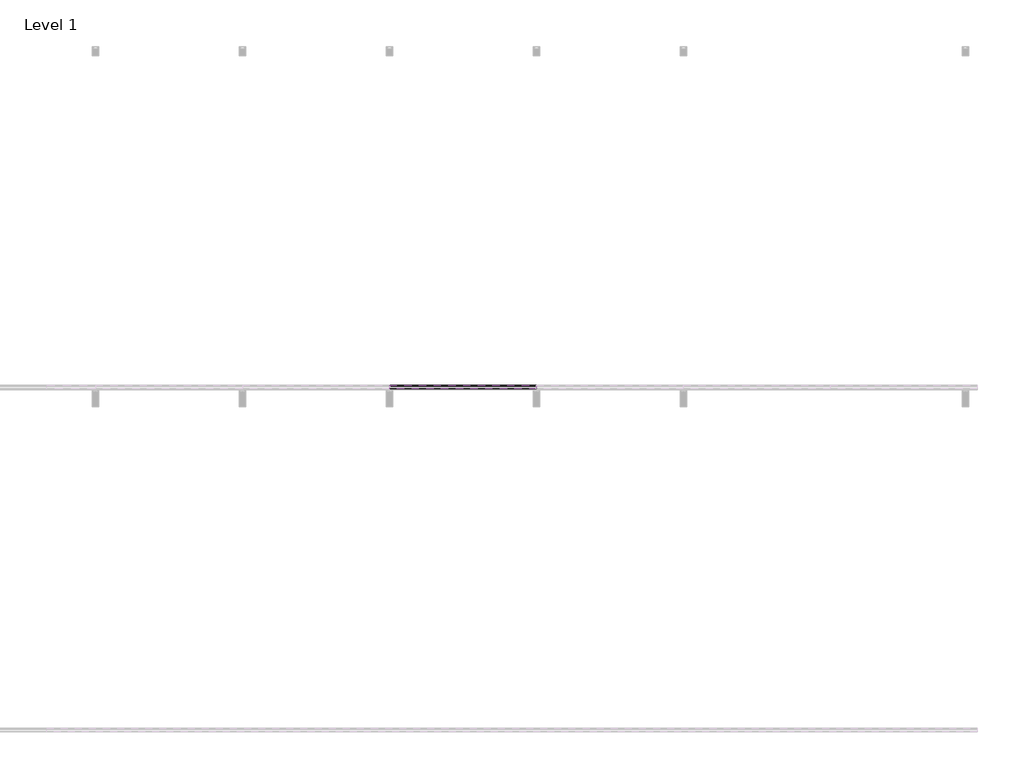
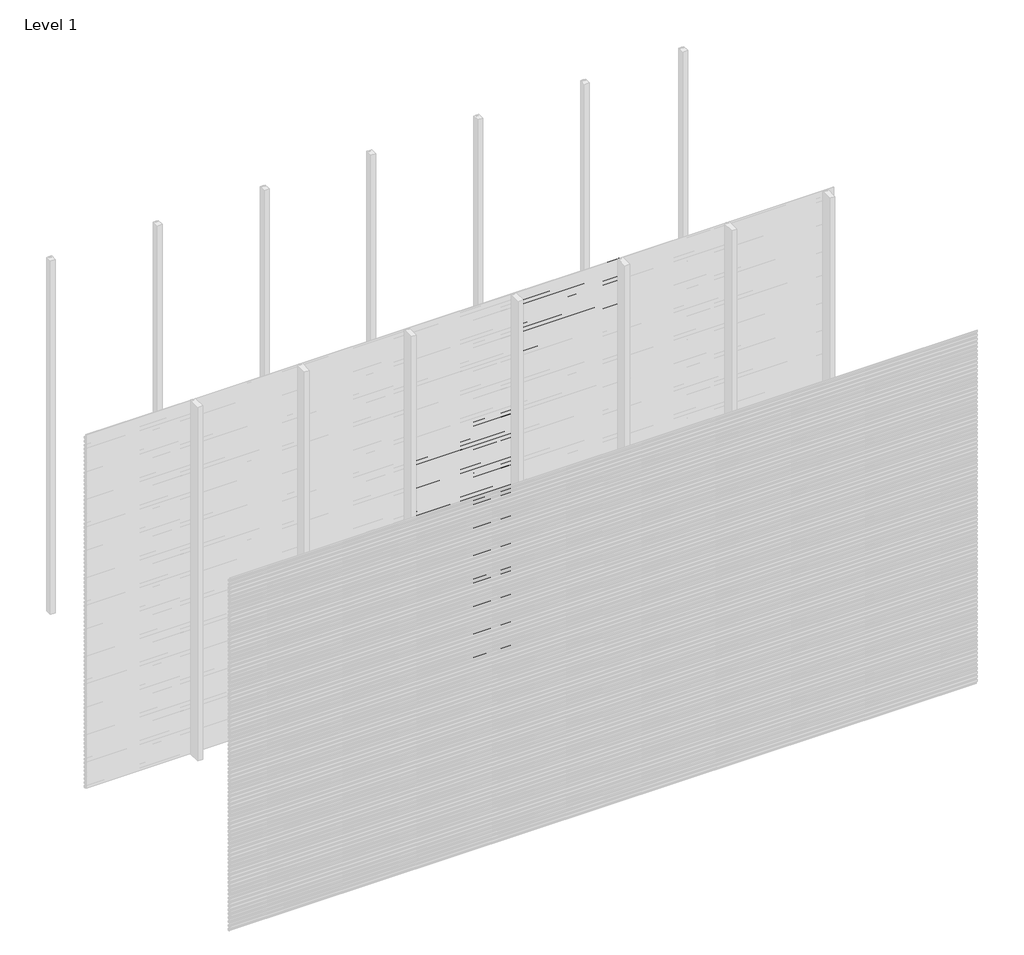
# One storey, part 37 of 96: 77 proxies.
"""IFC4 building model written with IfcOpenShell, lengths in millimetres."""

import ifcopenshell
import ifcopenshell.guid

model = None  # the IFC model being written
_history = None  # IfcOwnerHistory: only IFC2X3 demands one
_inside = {}  # id of a spatial element -> (the spatial element, [elements in it])
_under = {}  # id of a project, library or spatial element -> (it, [spatial elements below it])
_declared = {}  # id of a project -> (the project, [libraries it declares])
_typed = {}  # id of a type object -> (the type object, [elements of that type])
_made_of = {}  # id of a material, layer set ... -> (it, [elements and type objects made of it])


def new_model(schema):
    """Start an empty IFC model of exactly this schema.

    Asked for "IFC4X3", IfcOpenShell would pick the latest addendum, in which some entities
    have other attributes; the version numbers below select the first issue.
    IFC2X3 requires an IfcOwnerHistory on every rooted entity: one is made here for all.
    """
    global model, _history
    if schema == "IFC4X3":
        model = ifcopenshell.file(schema_version=(4, 3, 0, 0))
    else:
        model = ifcopenshell.file(schema=schema)
    _inside.clear()
    _under.clear()
    _declared.clear()
    _typed.clear()
    _made_of.clear()
    _history = None
    if model.schema == "IFC2X3":
        org = make("IfcOrganization", Name="unknown")
        user = make(
            "IfcPersonAndOrganization",
            ThePerson=make("IfcPerson", FamilyName="unknown"),
            TheOrganization=org,
        )
        app = make(
            "IfcApplication",
            ApplicationDeveloper=org,
            Version="unknown",
            ApplicationFullName="unknown",
            ApplicationIdentifier="unknown",
        )
        _history = make(
            "IfcOwnerHistory",
            OwningUser=user,
            OwningApplication=app,
            ChangeAction="ADDED",
            CreationDate=0,
        )
    return model


def make(cls, **values):
    """One entity of the class cls with the attributes given. An attribute that is None is left unset."""
    return model.create_entity(
        cls, **{name: value for name, value in values.items() if value is not None}
    )


def rooted(cls, **values):
    """An entity with a GlobalId (a new one), such as an element, a storey or a relation."""
    return make(cls, GlobalId=ifcopenshell.guid.new(), OwnerHistory=_history, **values)


def si_unit(unit_type, name, prefix=None):
    """IfcSIUnit, for example si_unit("LENGTHUNIT", "METRE", prefix="MILLI")."""
    return make("IfcSIUnit", UnitType=unit_type, Prefix=prefix, Name=name)


def assignment(units):
    """IfcUnitAssignment: the units of a project."""
    return None if units is None else make("IfcUnitAssignment", Units=units)


def point(xyz):
    """IfcCartesianPoint."""
    return None if xyz is None else make("IfcCartesianPoint", Coordinates=xyz)


def direction(xyz):
    """IfcDirection."""
    return None if xyz is None else make("IfcDirection", DirectionRatios=xyz)


def frame(location, z_axis=None, x_axis=None):
    """IfcAxis2Placement3D, a coordinate frame: its origin and axes. An axis left out is left unset."""
    return make(
        "IfcAxis2Placement3D",
        Location=point(location),
        Axis=direction(z_axis),
        RefDirection=direction(x_axis),
    )


def origin():
    """The frame at (0, 0, 0) with its axes left unset."""
    return frame((0.0, 0.0, 0.0))


def place(relative_to, where):
    """IfcLocalPlacement: puts the frame where relative to a parent placement (None: the world)."""
    return make(
        "IfcLocalPlacement", PlacementRelTo=relative_to, RelativePlacement=where
    )


def context(
    kind, dimensions, precision=None, world=None, true_north=None, identifier=None
):
    """IfcGeometricRepresentationContext, for example the 3D "Model" context."""
    return make(
        "IfcGeometricRepresentationContext",
        ContextIdentifier=identifier,
        ContextType=kind,
        CoordinateSpaceDimension=dimensions,
        Precision=precision,
        WorldCoordinateSystem=world,
        TrueNorth=true_north,
    )


def project(units=None, contexts=None):
    """IfcProject with its units and contexts."""
    return rooted(
        "IfcProject",
        Name="project",
        RepresentationContexts=contexts,
        UnitsInContext=assignment(units),
    )


def spatial(cls, under=None, at=None, **own):
    """A site, building, storey or space (cls), placed at a placement, below another one or the project."""
    s = rooted(cls, ObjectPlacement=at, **own)
    if under is not None:
        _under.setdefault(under.id(), (under, []))[1].append(s)
    return s


def polyline(points):
    """IfcPolyline through the points."""
    return make("IfcPolyline", Points=[point(p) for p in points])


def outline(outer, holes=None, kind="AREA"):
    """IfcArbitraryClosedProfileDef: a profile drawn as a closed curve; with holes, ...WithVoids."""
    if holes is None:
        return make("IfcArbitraryClosedProfileDef", ProfileType=kind, OuterCurve=outer)
    return make(
        "IfcArbitraryProfileDefWithVoids",
        ProfileType=kind,
        OuterCurve=outer,
        InnerCurves=holes,
    )


def extrude(swept, where, along, depth):
    """IfcExtrudedAreaSolid: the profile swept, set in the frame where, extruded along a direction by depth."""
    return make(
        "IfcExtrudedAreaSolid",
        SweptArea=swept,
        Position=where,
        ExtrudedDirection=direction(along),
        Depth=depth,
    )


def shape(context_of_items, identifier, shape_type, items):
    """IfcShapeRepresentation: the items that make up one representation, for example the "Body"."""
    return make(
        "IfcShapeRepresentation",
        ContextOfItems=context_of_items,
        RepresentationIdentifier=identifier,
        RepresentationType=shape_type,
        Items=items,
    )


def made_of(thing, what):
    """Note that an element or type object is made of a material, layer set ...; save() writes the relation."""
    if what is not None:
        _made_of.setdefault(what.id(), (what, []))[1].append(thing)
    return thing


def element(
    cls,
    number,
    at=None,
    inside=None,
    cuts=None,
    type_object=None,
    material=None,
    context=None,
    identifier="Body",
    shape_type=None,
    held_by="IfcProductDefinitionShape",
    body=None,
    shapes=None,
    **own,
):
    """One element of the class cls, such as IfcWall. Its Tag is "e" and its number.

    at: its placement. inside: the storey or other place that contains it. cuts: it is an
    opening in that element (IfcRelVoidsElement). A single representation is given by context,
    identifier, shape_type and body (its items); several are given by shapes. held_by: the class
    of the entity that holds the representations. save() writes the other relations.
    """
    e = rooted(cls, Tag="e%d" % number, ObjectPlacement=at, **own)
    if body is not None:
        shapes = [shape(context, identifier, shape_type, body)]
    if shapes is not None:
        e.Representation = make(held_by, Representations=shapes)
    if inside is not None:
        _inside.setdefault(inside.id(), (inside, []))[1].append(e)
    if cuts is not None:
        rooted(
            "IfcRelVoidsElement", RelatingBuildingElement=cuts, RelatedOpeningElement=e
        )
    if type_object is not None:
        _typed.setdefault(type_object.id(), (type_object, []))[1].append(e)
    return made_of(e, material)


def aggregate(whole, parts):
    """IfcRelAggregates: a whole, such as a stair, and the parts it consists of."""
    return rooted("IfcRelAggregates", RelatingObject=whole, RelatedObjects=parts)


def save(model, path):
    """Write the relations noted so far, then the file.

    IfcRelAggregates (storeys below a building ...), IfcRelContainedInSpatialStructure (elements
    in a storey), IfcRelDefinesByType, IfcRelAssociatesMaterial and IfcRelDeclares: one each for
    every whole, place, type object, material and project.
    """
    for whole, parts in _under.values():
        aggregate(whole, parts)
    for where, things in _inside.values():
        rooted(
            "IfcRelContainedInSpatialStructure",
            RelatedElements=things,
            RelatingStructure=where,
        )
    for kind, things in _typed.values():
        rooted("IfcRelDefinesByType", RelatedObjects=things, RelatingType=kind)
    for what, things in _made_of.values():
        rooted("IfcRelAssociatesMaterial", RelatedObjects=things, RelatingMaterial=what)
    for by, libraries in _declared.values():
        rooted("IfcRelDeclares", RelatingContext=by, RelatedDefinitions=libraries)
    model.write(path)


model = new_model("IFC4")

# Units and contexts
model_context = context("Model", 3, world=origin())
ifc_project = project(units=[si_unit("LENGTHUNIT", "METRE", prefix="MILLI")], contexts=[model_context])

# Site, building, storey
site = spatial("IfcSite", under=ifc_project)
building = spatial("IfcBuilding", under=site)
storey = spatial("IfcBuildingStorey", under=building, Name="Level 1", Elevation=0.0)

# Proxies
placement = place(None, origin())
element("IfcBuildingElementProxy", 1, Name="Wall Sweeps", at=placement, inside=storey, context=model_context, shape_type="SweptSolid", body=[
    extrude(outline(polyline([(-35977.6, 2006.0655033), (-35977.6, 1991.7779188), (-35982.4114965, 1989.0), (-35982.4114965, 1990.2701706), (-35978.85, 1992.3264016), (-35978.85, 2005.3437382), (-35998.0, 2016.4000799), (-35998.0, 2031.3), (-35996.75, 2031.3), (-35996.75, 2017.1217609), (-35977.6, 2006.0655033)])), frame((2571.4285714, 0.0, 0.0), z_axis=(1.0, 0.0, 0.0), x_axis=(0.0, 1.0, 0.0)), (0.0, 0.0, 1.0), 857.1428571),
])
element("IfcBuildingElementProxy", 2, Name="Wall Sweeps", at=placement, inside=storey, context=model_context, shape_type="SweptSolid", body=[
    extrude(outline(polyline([(-35977.6, 1972.7655033), (-35977.6, 1958.4779188), (-35982.4114965, 1955.7), (-35982.4114965, 1956.9701706), (-35978.85, 1959.0264016), (-35978.85, 1972.0437382), (-35998.0, 1983.1000799), (-35998.0, 1998.0), (-35996.75, 1998.0), (-35996.75, 1983.8217609), (-35977.6, 1972.7655033)])), frame((2571.4285714, 0.0, 0.0), z_axis=(1.0, 0.0, 0.0), x_axis=(0.0, 1.0, 0.0)), (0.0, 0.0, 1.0), 857.1428571),
])
element("IfcBuildingElementProxy", 3, Name="Wall Sweeps", at=placement, inside=storey, context=model_context, shape_type="SweptSolid", body=[
    extrude(outline(polyline([(-35977.6, 1939.4655033), (-35977.6, 1925.1779188), (-35982.4114965, 1922.4), (-35982.4114965, 1923.6701706), (-35978.85, 1925.7264016), (-35978.85, 1938.7437382), (-35998.0, 1949.8000799), (-35998.0, 1964.7), (-35996.75, 1964.7), (-35996.75, 1950.5217609), (-35977.6, 1939.4655033)])), frame((2571.4285714, 0.0, 0.0), z_axis=(1.0, 0.0, 0.0), x_axis=(0.0, 1.0, 0.0)), (0.0, 0.0, 1.0), 857.1428571),
])
element("IfcBuildingElementProxy", 4, Name="Wall Sweeps", at=placement, inside=storey, context=model_context, shape_type="SweptSolid", body=[
    extrude(outline(polyline([(-35977.6, 1906.1655033), (-35977.6, 1891.8779188), (-35982.4114965, 1889.1), (-35982.4114965, 1890.3701706), (-35978.85, 1892.4264016), (-35978.85, 1905.4437382), (-35998.0, 1916.5000799), (-35998.0, 1931.4), (-35996.75, 1931.4), (-35996.75, 1917.2217609), (-35977.6, 1906.1655033)])), frame((2571.4285714, 0.0, 0.0), z_axis=(1.0, 0.0, 0.0), x_axis=(0.0, 1.0, 0.0)), (0.0, 0.0, 1.0), 857.1428571),
])
element("IfcBuildingElementProxy", 5, Name="Wall Sweeps", at=placement, inside=storey, context=model_context, shape_type="SweptSolid", body=[
    extrude(outline(polyline([(-35977.6, 1872.8655033), (-35977.6, 1858.5779188), (-35982.4114965, 1855.8), (-35982.4114965, 1857.0701706), (-35978.85, 1859.1264016), (-35978.85, 1872.1437382), (-35998.0, 1883.2000799), (-35998.0, 1898.1), (-35996.75, 1898.1), (-35996.75, 1883.9217609), (-35977.6, 1872.8655033)])), frame((2571.4285714, 0.0, 0.0), z_axis=(1.0, 0.0, 0.0), x_axis=(0.0, 1.0, 0.0)), (0.0, 0.0, 1.0), 857.1428571),
])
element("IfcBuildingElementProxy", 6, Name="Wall Sweeps", at=placement, inside=storey, context=model_context, shape_type="SweptSolid", body=[
    extrude(outline(polyline([(-35977.6, 1839.5655033), (-35977.6, 1825.2779188), (-35982.4114965, 1822.5), (-35982.4114965, 1823.7701706), (-35978.85, 1825.8264016), (-35978.85, 1838.8437382), (-35998.0, 1849.9000799), (-35998.0, 1864.8), (-35996.75, 1864.8), (-35996.75, 1850.6217609), (-35977.6, 1839.5655033)])), frame((2571.4285714, 0.0, 0.0), z_axis=(1.0, 0.0, 0.0), x_axis=(0.0, 1.0, 0.0)), (0.0, 0.0, 1.0), 857.1428571),
])
element("IfcBuildingElementProxy", 7, Name="Wall Sweeps", at=placement, inside=storey, context=model_context, shape_type="SweptSolid", body=[
    extrude(outline(polyline([(-35977.6, 1806.2655033), (-35977.6, 1791.9779188), (-35982.4114965, 1789.2), (-35982.4114965, 1790.4701706), (-35978.85, 1792.5264016), (-35978.85, 1805.5437382), (-35998.0, 1816.6000799), (-35998.0, 1831.5), (-35996.75, 1831.5), (-35996.75, 1817.3217609), (-35977.6, 1806.2655033)])), frame((2571.4285714, 0.0, 0.0), z_axis=(1.0, 0.0, 0.0), x_axis=(0.0, 1.0, 0.0)), (0.0, 0.0, 1.0), 857.1428571),
])
element("IfcBuildingElementProxy", 8, Name="Wall Sweeps", at=placement, inside=storey, context=model_context, shape_type="SweptSolid", body=[
    extrude(outline(polyline([(-35977.6, 1772.9655033), (-35977.6, 1758.6779188), (-35982.4114965, 1755.9), (-35982.4114965, 1757.1701706), (-35978.85, 1759.2264016), (-35978.85, 1772.2437382), (-35998.0, 1783.3000799), (-35998.0, 1798.2), (-35996.75, 1798.2), (-35996.75, 1784.0217609), (-35977.6, 1772.9655033)])), frame((2571.4285714, 0.0, 0.0), z_axis=(1.0, 0.0, 0.0), x_axis=(0.0, 1.0, 0.0)), (0.0, 0.0, 1.0), 857.1428571),
])
element("IfcBuildingElementProxy", 9, Name="Wall Sweeps", at=placement, inside=storey, context=model_context, shape_type="SweptSolid", body=[
    extrude(outline(polyline([(-35977.6, 1739.6655033), (-35977.6, 1725.3779188), (-35982.4114965, 1722.6), (-35982.4114965, 1723.8701706), (-35978.85, 1725.9264016), (-35978.85, 1738.9437382), (-35998.0, 1750.0000799), (-35998.0, 1764.9), (-35996.75, 1764.9), (-35996.75, 1750.7217609), (-35977.6, 1739.6655033)])), frame((2571.4285714, 0.0, 0.0), z_axis=(1.0, 0.0, 0.0), x_axis=(0.0, 1.0, 0.0)), (0.0, 0.0, 1.0), 857.1428571),
])
element("IfcBuildingElementProxy", 10, Name="Wall Sweeps", at=placement, inside=storey, context=model_context, shape_type="SweptSolid", body=[
    extrude(outline(polyline([(-35977.6, 1706.3655033), (-35977.6, 1692.0779188), (-35982.4114965, 1689.3), (-35982.4114965, 1690.5701706), (-35978.85, 1692.6264016), (-35978.85, 1705.6437382), (-35998.0, 1716.7000799), (-35998.0, 1731.6), (-35996.75, 1731.6), (-35996.75, 1717.4217609), (-35977.6, 1706.3655033)])), frame((2571.4285714, 0.0, 0.0), z_axis=(1.0, 0.0, 0.0), x_axis=(0.0, 1.0, 0.0)), (0.0, 0.0, 1.0), 857.1428571),
])
element("IfcBuildingElementProxy", 11, Name="Wall Sweeps", at=placement, inside=storey, context=model_context, shape_type="SweptSolid", body=[
    extrude(outline(polyline([(-35977.6, 1673.0655033), (-35977.6, 1658.7779188), (-35982.4114965, 1656.0), (-35982.4114965, 1657.2701706), (-35978.85, 1659.3264016), (-35978.85, 1672.3437382), (-35998.0, 1683.4000799), (-35998.0, 1698.3), (-35996.75, 1698.3), (-35996.75, 1684.1217609), (-35977.6, 1673.0655033)])), frame((2571.4285714, 0.0, 0.0), z_axis=(1.0, 0.0, 0.0), x_axis=(0.0, 1.0, 0.0)), (0.0, 0.0, 1.0), 857.1428571),
])
element("IfcBuildingElementProxy", 12, Name="Wall Sweeps", at=placement, inside=storey, context=model_context, shape_type="SweptSolid", body=[
    extrude(outline(polyline([(-35977.6, 1639.7655033), (-35977.6, 1625.4779188), (-35982.4114965, 1622.7), (-35982.4114965, 1623.9701706), (-35978.85, 1626.0264016), (-35978.85, 1639.0437382), (-35998.0, 1650.1000799), (-35998.0, 1665.0), (-35996.75, 1665.0), (-35996.75, 1650.8217609), (-35977.6, 1639.7655033)])), frame((2571.4285714, 0.0, 0.0), z_axis=(1.0, 0.0, 0.0), x_axis=(0.0, 1.0, 0.0)), (0.0, 0.0, 1.0), 857.1428571),
])
element("IfcBuildingElementProxy", 13, Name="Wall Sweeps", at=placement, inside=storey, context=model_context, shape_type="SweptSolid", body=[
    extrude(outline(polyline([(-35977.6, 1606.4655033), (-35977.6, 1592.1779188), (-35982.4114965, 1589.4), (-35982.4114965, 1590.6701706), (-35978.85, 1592.7264016), (-35978.85, 1605.7437382), (-35998.0, 1616.8000799), (-35998.0, 1631.7), (-35996.75, 1631.7), (-35996.75, 1617.5217609), (-35977.6, 1606.4655033)])), frame((2571.4285714, 0.0, 0.0), z_axis=(1.0, 0.0, 0.0), x_axis=(0.0, 1.0, 0.0)), (0.0, 0.0, 1.0), 857.1428571),
])
element("IfcBuildingElementProxy", 14, Name="Wall Sweeps", at=placement, inside=storey, context=model_context, shape_type="SweptSolid", body=[
    extrude(outline(polyline([(-35977.6, 1573.1655033), (-35977.6, 1558.8779188), (-35982.4114965, 1556.1), (-35982.4114965, 1557.3701706), (-35978.85, 1559.4264016), (-35978.85, 1572.4437382), (-35998.0, 1583.5000799), (-35998.0, 1598.4), (-35996.75, 1598.4), (-35996.75, 1584.2217609), (-35977.6, 1573.1655033)])), frame((2571.4285714, 0.0, 0.0), z_axis=(1.0, 0.0, 0.0), x_axis=(0.0, 1.0, 0.0)), (0.0, 0.0, 1.0), 857.1428571),
])
element("IfcBuildingElementProxy", 15, Name="Wall Sweeps", at=placement, inside=storey, context=model_context, shape_type="SweptSolid", body=[
    extrude(outline(polyline([(-35977.6, 1539.8655033), (-35977.6, 1525.5779188), (-35982.4114965, 1522.8), (-35982.4114965, 1524.0701706), (-35978.85, 1526.1264016), (-35978.85, 1539.1437382), (-35998.0, 1550.2000799), (-35998.0, 1565.1), (-35996.75, 1565.1), (-35996.75, 1550.9217609), (-35977.6, 1539.8655033)])), frame((2571.4285714, 0.0, 0.0), z_axis=(1.0, 0.0, 0.0), x_axis=(0.0, 1.0, 0.0)), (0.0, 0.0, 1.0), 857.1428571),
])
element("IfcBuildingElementProxy", 16, Name="Wall Sweeps", at=placement, inside=storey, context=model_context, shape_type="SweptSolid", body=[
    extrude(outline(polyline([(-35977.6, 1506.5655033), (-35977.6, 1492.2779188), (-35982.4114965, 1489.5), (-35982.4114965, 1490.7701706), (-35978.85, 1492.8264016), (-35978.85, 1505.8437382), (-35998.0, 1516.9000799), (-35998.0, 1531.8), (-35996.75, 1531.8), (-35996.75, 1517.6217609), (-35977.6, 1506.5655033)])), frame((2571.4285714, 0.0, 0.0), z_axis=(1.0, 0.0, 0.0), x_axis=(0.0, 1.0, 0.0)), (0.0, 0.0, 1.0), 857.1428571),
])
element("IfcBuildingElementProxy", 17, Name="Wall Sweeps", at=placement, inside=storey, context=model_context, shape_type="SweptSolid", body=[
    extrude(outline(polyline([(-35977.6, 1473.2655033), (-35977.6, 1458.9779188), (-35982.4114965, 1456.2), (-35982.4114965, 1457.4701706), (-35978.85, 1459.5264016), (-35978.85, 1472.5437382), (-35998.0, 1483.6000799), (-35998.0, 1498.5), (-35996.75, 1498.5), (-35996.75, 1484.3217609), (-35977.6, 1473.2655033)])), frame((2571.4285714, 0.0, 0.0), z_axis=(1.0, 0.0, 0.0), x_axis=(0.0, 1.0, 0.0)), (0.0, 0.0, 1.0), 857.1428571),
])
element("IfcBuildingElementProxy", 18, Name="Wall Sweeps", at=placement, inside=storey, context=model_context, shape_type="SweptSolid", body=[
    extrude(outline(polyline([(-35977.6, 1439.9655033), (-35977.6, 1425.6779188), (-35982.4114965, 1422.9), (-35982.4114965, 1424.1701706), (-35978.85, 1426.2264016), (-35978.85, 1439.2437382), (-35998.0, 1450.3000799), (-35998.0, 1465.2), (-35996.75, 1465.2), (-35996.75, 1451.0217609), (-35977.6, 1439.9655033)])), frame((2571.4285714, 0.0, 0.0), z_axis=(1.0, 0.0, 0.0), x_axis=(0.0, 1.0, 0.0)), (0.0, 0.0, 1.0), 857.1428571),
])
element("IfcBuildingElementProxy", 19, Name="Wall Sweeps", at=placement, inside=storey, context=model_context, shape_type="SweptSolid", body=[
    extrude(outline(polyline([(-35977.6, 1406.6655033), (-35977.6, 1392.3779188), (-35982.4114965, 1389.6), (-35982.4114965, 1390.8701706), (-35978.85, 1392.9264016), (-35978.85, 1405.9437382), (-35998.0, 1417.0000799), (-35998.0, 1431.9), (-35996.75, 1431.9), (-35996.75, 1417.7217609), (-35977.6, 1406.6655033)])), frame((2571.4285714, 0.0, 0.0), z_axis=(1.0, 0.0, 0.0), x_axis=(0.0, 1.0, 0.0)), (0.0, 0.0, 1.0), 857.1428571),
])
element("IfcBuildingElementProxy", 20, Name="Wall Sweeps", at=placement, inside=storey, context=model_context, shape_type="SweptSolid", body=[
    extrude(outline(polyline([(-35977.6, 1373.3655033), (-35977.6, 1359.0779188), (-35982.4114965, 1356.3), (-35982.4114965, 1357.5701706), (-35978.85, 1359.6264016), (-35978.85, 1372.6437382), (-35998.0, 1383.7000799), (-35998.0, 1398.6), (-35996.75, 1398.6), (-35996.75, 1384.4217609), (-35977.6, 1373.3655033)])), frame((2571.4285714, 0.0, 0.0), z_axis=(1.0, 0.0, 0.0), x_axis=(0.0, 1.0, 0.0)), (0.0, 0.0, 1.0), 857.1428571),
])
element("IfcBuildingElementProxy", 21, Name="Wall Sweeps", at=placement, inside=storey, context=model_context, shape_type="SweptSolid", body=[
    extrude(outline(polyline([(-35977.6, 1340.0655033), (-35977.6, 1325.7779188), (-35982.4114965, 1323.0), (-35982.4114965, 1324.2701706), (-35978.85, 1326.3264016), (-35978.85, 1339.3437382), (-35998.0, 1350.4000799), (-35998.0, 1365.3), (-35996.75, 1365.3), (-35996.75, 1351.1217609), (-35977.6, 1340.0655033)])), frame((2571.4285714, 0.0, 0.0), z_axis=(1.0, 0.0, 0.0), x_axis=(0.0, 1.0, 0.0)), (0.0, 0.0, 1.0), 857.1428571),
])
element("IfcBuildingElementProxy", 22, Name="Wall Sweeps", at=placement, inside=storey, context=model_context, shape_type="SweptSolid", body=[
    extrude(outline(polyline([(-35977.6, 1306.7655033), (-35977.6, 1292.4779188), (-35982.4114965, 1289.7), (-35982.4114965, 1290.9701706), (-35978.85, 1293.0264016), (-35978.85, 1306.0437382), (-35998.0, 1317.1000799), (-35998.0, 1332.0), (-35996.75, 1332.0), (-35996.75, 1317.8217609), (-35977.6, 1306.7655033)])), frame((2571.4285714, 0.0, 0.0), z_axis=(1.0, 0.0, 0.0), x_axis=(0.0, 1.0, 0.0)), (0.0, 0.0, 1.0), 857.1428571),
])
element("IfcBuildingElementProxy", 23, Name="Wall Sweeps", at=placement, inside=storey, context=model_context, shape_type="SweptSolid", body=[
    extrude(outline(polyline([(-35977.6, 1273.4655033), (-35977.6, 1259.1779188), (-35982.4114965, 1256.4), (-35982.4114965, 1257.6701706), (-35978.85, 1259.7264016), (-35978.85, 1272.7437382), (-35998.0, 1283.8000799), (-35998.0, 1298.7), (-35996.75, 1298.7), (-35996.75, 1284.5217609), (-35977.6, 1273.4655033)])), frame((2571.4285714, 0.0, 0.0), z_axis=(1.0, 0.0, 0.0), x_axis=(0.0, 1.0, 0.0)), (0.0, 0.0, 1.0), 857.1428571),
])
element("IfcBuildingElementProxy", 24, Name="Wall Sweeps", at=placement, inside=storey, context=model_context, shape_type="SweptSolid", body=[
    extrude(outline(polyline([(-35977.6, 1240.1655033), (-35977.6, 1225.8779188), (-35982.4114965, 1223.1), (-35982.4114965, 1224.3701706), (-35978.85, 1226.4264016), (-35978.85, 1239.4437382), (-35998.0, 1250.5000799), (-35998.0, 1265.4), (-35996.75, 1265.4), (-35996.75, 1251.2217609), (-35977.6, 1240.1655033)])), frame((2571.4285714, 0.0, 0.0), z_axis=(1.0, 0.0, 0.0), x_axis=(0.0, 1.0, 0.0)), (0.0, 0.0, 1.0), 857.1428571),
])
element("IfcBuildingElementProxy", 25, Name="Wall Sweeps", at=placement, inside=storey, context=model_context, shape_type="SweptSolid", body=[
    extrude(outline(polyline([(-35977.6, 1206.8655033), (-35977.6, 1192.5779188), (-35982.4114965, 1189.8), (-35982.4114965, 1191.0701706), (-35978.85, 1193.1264016), (-35978.85, 1206.1437382), (-35998.0, 1217.2000799), (-35998.0, 1232.1), (-35996.75, 1232.1), (-35996.75, 1217.9217609), (-35977.6, 1206.8655033)])), frame((2571.4285714, 0.0, 0.0), z_axis=(1.0, 0.0, 0.0), x_axis=(0.0, 1.0, 0.0)), (0.0, 0.0, 1.0), 857.1428571),
])
element("IfcBuildingElementProxy", 26, Name="Wall Sweeps", at=placement, inside=storey, context=model_context, shape_type="SweptSolid", body=[
    extrude(outline(polyline([(-35977.6, 1173.5655033), (-35977.6, 1159.2779188), (-35982.4114965, 1156.5), (-35982.4114965, 1157.7701706), (-35978.85, 1159.8264016), (-35978.85, 1172.8437382), (-35998.0, 1183.9000799), (-35998.0, 1198.8), (-35996.75, 1198.8), (-35996.75, 1184.6217609), (-35977.6, 1173.5655033)])), frame((2571.4285714, 0.0, 0.0), z_axis=(1.0, 0.0, 0.0), x_axis=(0.0, 1.0, 0.0)), (0.0, 0.0, 1.0), 857.1428571),
])
element("IfcBuildingElementProxy", 27, Name="Wall Sweeps", at=placement, inside=storey, context=model_context, shape_type="SweptSolid", body=[
    extrude(outline(polyline([(-35977.6, 1140.2655033), (-35977.6, 1125.9779188), (-35982.4114965, 1123.2), (-35982.4114965, 1124.4701706), (-35978.85, 1126.5264016), (-35978.85, 1139.5437382), (-35998.0, 1150.6000799), (-35998.0, 1165.5), (-35996.75, 1165.5), (-35996.75, 1151.3217609), (-35977.6, 1140.2655033)])), frame((2571.4285714, 0.0, 0.0), z_axis=(1.0, 0.0, 0.0), x_axis=(0.0, 1.0, 0.0)), (0.0, 0.0, 1.0), 857.1428571),
])
element("IfcBuildingElementProxy", 28, Name="Wall Sweeps", at=placement, inside=storey, context=model_context, shape_type="SweptSolid", body=[
    extrude(outline(polyline([(-35977.6, 1106.9655033), (-35977.6, 1092.6779188), (-35982.4114965, 1089.9), (-35982.4114965, 1091.1701706), (-35978.85, 1093.2264016), (-35978.85, 1106.2437382), (-35998.0, 1117.3000799), (-35998.0, 1132.2), (-35996.75, 1132.2), (-35996.75, 1118.0217609), (-35977.6, 1106.9655033)])), frame((2571.4285714, 0.0, 0.0), z_axis=(1.0, 0.0, 0.0), x_axis=(0.0, 1.0, 0.0)), (0.0, 0.0, 1.0), 857.1428571),
])
element("IfcBuildingElementProxy", 29, Name="Wall Sweeps", at=placement, inside=storey, context=model_context, shape_type="SweptSolid", body=[
    extrude(outline(polyline([(-35977.6, 1073.6655033), (-35977.6, 1059.3779188), (-35982.4114965, 1056.6), (-35982.4114965, 1057.8701706), (-35978.85, 1059.9264016), (-35978.85, 1072.9437382), (-35998.0, 1084.0000799), (-35998.0, 1098.9), (-35996.75, 1098.9), (-35996.75, 1084.7217609), (-35977.6, 1073.6655033)])), frame((2571.4285714, 0.0, 0.0), z_axis=(1.0, 0.0, 0.0), x_axis=(0.0, 1.0, 0.0)), (0.0, 0.0, 1.0), 857.1428571),
])
element("IfcBuildingElementProxy", 30, Name="Wall Sweeps", at=placement, inside=storey, context=model_context, shape_type="SweptSolid", body=[
    extrude(outline(polyline([(-35977.6, 1040.3655033), (-35977.6, 1026.0779188), (-35982.4114965, 1023.3), (-35982.4114965, 1024.5701706), (-35978.85, 1026.6264016), (-35978.85, 1039.6437382), (-35998.0, 1050.7000799), (-35998.0, 1065.6), (-35996.75, 1065.6), (-35996.75, 1051.4217609), (-35977.6, 1040.3655033)])), frame((2571.4285714, 0.0, 0.0), z_axis=(1.0, 0.0, 0.0), x_axis=(0.0, 1.0, 0.0)), (0.0, 0.0, 1.0), 857.1428571),
])
element("IfcBuildingElementProxy", 31, Name="Wall Sweeps", at=placement, inside=storey, context=model_context, shape_type="SweptSolid", body=[
    extrude(outline(polyline([(-35977.6, 1007.0655033), (-35977.6, 992.7779188), (-35982.4114965, 990.0), (-35982.4114965, 991.2701706), (-35978.85, 993.3264016), (-35978.85, 1006.3437382), (-35998.0, 1017.4000799), (-35998.0, 1032.3), (-35996.75, 1032.3), (-35996.75, 1018.1217609), (-35977.6, 1007.0655033)])), frame((2571.4285714, 0.0, 0.0), z_axis=(1.0, 0.0, 0.0), x_axis=(0.0, 1.0, 0.0)), (0.0, 0.0, 1.0), 857.1428571),
])
element("IfcBuildingElementProxy", 32, Name="Wall Sweeps", at=placement, inside=storey, context=model_context, shape_type="SweptSolid", body=[
    extrude(outline(polyline([(-35977.6, 973.7655033), (-35977.6, 959.4779188), (-35982.4114965, 956.7), (-35982.4114965, 957.9701706), (-35978.85, 960.0264016), (-35978.85, 973.0437382), (-35998.0, 984.1000799), (-35998.0, 999.0), (-35996.75, 999.0), (-35996.75, 984.8217609), (-35977.6, 973.7655033)])), frame((2571.4285714, 0.0, 0.0), z_axis=(1.0, 0.0, 0.0), x_axis=(0.0, 1.0, 0.0)), (0.0, 0.0, 1.0), 857.1428571),
])
element("IfcBuildingElementProxy", 33, Name="Wall Sweeps", at=placement, inside=storey, context=model_context, shape_type="SweptSolid", body=[
    extrude(outline(polyline([(-35977.6, 940.4655033), (-35977.6, 926.1779188), (-35982.4114965, 923.4), (-35982.4114965, 924.6701706), (-35978.85, 926.7264016), (-35978.85, 939.7437382), (-35998.0, 950.8000799), (-35998.0, 965.7), (-35996.75, 965.7), (-35996.75, 951.5217609), (-35977.6, 940.4655033)])), frame((2571.4285714, 0.0, 0.0), z_axis=(1.0, 0.0, 0.0), x_axis=(0.0, 1.0, 0.0)), (0.0, 0.0, 1.0), 857.1428571),
])
element("IfcBuildingElementProxy", 34, Name="Wall Sweeps", at=placement, inside=storey, context=model_context, shape_type="SweptSolid", body=[
    extrude(outline(polyline([(-35977.6, 907.1655033), (-35977.6, 892.8779188), (-35982.4114965, 890.1), (-35982.4114965, 891.3701706), (-35978.85, 893.4264016), (-35978.85, 906.4437382), (-35998.0, 917.5000799), (-35998.0, 932.4), (-35996.75, 932.4), (-35996.75, 918.2217609), (-35977.6, 907.1655033)])), frame((2571.4285714, 0.0, 0.0), z_axis=(1.0, 0.0, 0.0), x_axis=(0.0, 1.0, 0.0)), (0.0, 0.0, 1.0), 857.1428571),
])
element("IfcBuildingElementProxy", 35, Name="Wall Sweeps", at=placement, inside=storey, context=model_context, shape_type="SweptSolid", body=[
    extrude(outline(polyline([(-35977.6, 873.8655033), (-35977.6, 859.5779188), (-35982.4114965, 856.8), (-35982.4114965, 858.0701706), (-35978.85, 860.1264016), (-35978.85, 873.1437382), (-35998.0, 884.2000799), (-35998.0, 899.1), (-35996.75, 899.1), (-35996.75, 884.9217609), (-35977.6, 873.8655033)])), frame((2571.4285714, 0.0, 0.0), z_axis=(1.0, 0.0, 0.0), x_axis=(0.0, 1.0, 0.0)), (0.0, 0.0, 1.0), 857.1428571),
])
element("IfcBuildingElementProxy", 36, Name="Wall Sweeps", at=placement, inside=storey, context=model_context, shape_type="SweptSolid", body=[
    extrude(outline(polyline([(-35977.6, 840.5655033), (-35977.6, 826.2779188), (-35982.4114965, 823.5), (-35982.4114965, 824.7701706), (-35978.85, 826.8264016), (-35978.85, 839.8437382), (-35998.0, 850.9000799), (-35998.0, 865.8), (-35996.75, 865.8), (-35996.75, 851.6217609), (-35977.6, 840.5655033)])), frame((2571.4285714, 0.0, 0.0), z_axis=(1.0, 0.0, 0.0), x_axis=(0.0, 1.0, 0.0)), (0.0, 0.0, 1.0), 857.1428571),
])
element("IfcBuildingElementProxy", 37, Name="Wall Sweeps", at=placement, inside=storey, context=model_context, shape_type="SweptSolid", body=[
    extrude(outline(polyline([(-35977.6, 807.2655033), (-35977.6, 792.9779188), (-35982.4114965, 790.2), (-35982.4114965, 791.4701706), (-35978.85, 793.5264016), (-35978.85, 806.5437382), (-35998.0, 817.6000799), (-35998.0, 832.5), (-35996.75, 832.5), (-35996.75, 818.3217609), (-35977.6, 807.2655033)])), frame((2571.4285714, 0.0, 0.0), z_axis=(1.0, 0.0, 0.0), x_axis=(0.0, 1.0, 0.0)), (0.0, 0.0, 1.0), 857.1428571),
])
element("IfcBuildingElementProxy", 38, Name="Wall Sweeps", at=placement, inside=storey, context=model_context, shape_type="SweptSolid", body=[
    extrude(outline(polyline([(-35977.6, 773.9655033), (-35977.6, 759.6779188), (-35982.4114965, 756.9), (-35982.4114965, 758.1701706), (-35978.85, 760.2264016), (-35978.85, 773.2437382), (-35998.0, 784.3000799), (-35998.0, 799.2), (-35996.75, 799.2), (-35996.75, 785.0217609), (-35977.6, 773.9655033)])), frame((2571.4285714, 0.0, 0.0), z_axis=(1.0, 0.0, 0.0), x_axis=(0.0, 1.0, 0.0)), (0.0, 0.0, 1.0), 857.1428571),
])
element("IfcBuildingElementProxy", 39, Name="Wall Sweeps", at=placement, inside=storey, context=model_context, shape_type="SweptSolid", body=[
    extrude(outline(polyline([(-35977.6, 740.6655033), (-35977.6, 726.3779188), (-35982.4114965, 723.6), (-35982.4114965, 724.8701706), (-35978.85, 726.9264016), (-35978.85, 739.9437382), (-35998.0, 751.0000799), (-35998.0, 765.9), (-35996.75, 765.9), (-35996.75, 751.7217609), (-35977.6, 740.6655033)])), frame((2571.4285714, 0.0, 0.0), z_axis=(1.0, 0.0, 0.0), x_axis=(0.0, 1.0, 0.0)), (0.0, 0.0, 1.0), 857.1428571),
])
element("IfcBuildingElementProxy", 40, Name="Wall Sweeps", at=placement, inside=storey, context=model_context, shape_type="SweptSolid", body=[
    extrude(outline(polyline([(-35977.6, 707.3655033), (-35977.6, 693.0779188), (-35982.4114965, 690.3), (-35982.4114965, 691.5701706), (-35978.85, 693.6264016), (-35978.85, 706.6437382), (-35998.0, 717.7000799), (-35998.0, 732.6), (-35996.75, 732.6), (-35996.75, 718.4217609), (-35977.6, 707.3655033)])), frame((2571.4285714, 0.0, 0.0), z_axis=(1.0, 0.0, 0.0), x_axis=(0.0, 1.0, 0.0)), (0.0, 0.0, 1.0), 857.1428571),
])
element("IfcBuildingElementProxy", 41, Name="Wall Sweeps", at=placement, inside=storey, context=model_context, shape_type="SweptSolid", body=[
    extrude(outline(polyline([(-35977.6, 674.0655033), (-35977.6, 659.7779188), (-35982.4114965, 657.0), (-35982.4114965, 658.2701706), (-35978.85, 660.3264016), (-35978.85, 673.3437382), (-35998.0, 684.4000799), (-35998.0, 699.3), (-35996.75, 699.3), (-35996.75, 685.1217609), (-35977.6, 674.0655033)])), frame((2571.4285714, 0.0, 0.0), z_axis=(1.0, 0.0, 0.0), x_axis=(0.0, 1.0, 0.0)), (0.0, 0.0, 1.0), 857.1428571),
])
element("IfcBuildingElementProxy", 42, Name="Wall Sweeps", at=placement, inside=storey, context=model_context, shape_type="SweptSolid", body=[
    extrude(outline(polyline([(-35977.6, 640.7655033), (-35977.6, 626.4779188), (-35982.4114965, 623.7), (-35982.4114965, 624.9701706), (-35978.85, 627.0264016), (-35978.85, 640.0437382), (-35998.0, 651.1000799), (-35998.0, 666.0), (-35996.75, 666.0), (-35996.75, 651.8217609), (-35977.6, 640.7655033)])), frame((2571.4285714, 0.0, 0.0), z_axis=(1.0, 0.0, 0.0), x_axis=(0.0, 1.0, 0.0)), (0.0, 0.0, 1.0), 857.1428571),
])
element("IfcBuildingElementProxy", 43, Name="Wall Sweeps", at=placement, inside=storey, context=model_context, shape_type="SweptSolid", body=[
    extrude(outline(polyline([(-35977.6, 607.4655033), (-35977.6, 593.1779188), (-35982.4114965, 590.4), (-35982.4114965, 591.6701706), (-35978.85, 593.7264016), (-35978.85, 606.7437382), (-35998.0, 617.8000799), (-35998.0, 632.7), (-35996.75, 632.7), (-35996.75, 618.5217609), (-35977.6, 607.4655033)])), frame((2571.4285714, 0.0, 0.0), z_axis=(1.0, 0.0, 0.0), x_axis=(0.0, 1.0, 0.0)), (0.0, 0.0, 1.0), 857.1428571),
])
element("IfcBuildingElementProxy", 44, Name="Wall Sweeps", at=placement, inside=storey, context=model_context, shape_type="SweptSolid", body=[
    extrude(outline(polyline([(-35977.6, 574.1655033), (-35977.6, 559.8779188), (-35982.4114965, 557.1), (-35982.4114965, 558.3701706), (-35978.85, 560.4264016), (-35978.85, 573.4437382), (-35998.0, 584.5000799), (-35998.0, 599.4), (-35996.75, 599.4), (-35996.75, 585.2217609), (-35977.6, 574.1655033)])), frame((2571.4285714, 0.0, 0.0), z_axis=(1.0, 0.0, 0.0), x_axis=(0.0, 1.0, 0.0)), (0.0, 0.0, 1.0), 857.1428571),
])
element("IfcBuildingElementProxy", 45, Name="Wall Sweeps", at=placement, inside=storey, context=model_context, shape_type="SweptSolid", body=[
    extrude(outline(polyline([(-35977.6, 540.8655033), (-35977.6, 526.5779188), (-35982.4114965, 523.8), (-35982.4114965, 525.0701706), (-35978.85, 527.1264016), (-35978.85, 540.1437382), (-35998.0, 551.2000799), (-35998.0, 566.1), (-35996.75, 566.1), (-35996.75, 551.9217609), (-35977.6, 540.8655033)])), frame((2571.4285714, 0.0, 0.0), z_axis=(1.0, 0.0, 0.0), x_axis=(0.0, 1.0, 0.0)), (0.0, 0.0, 1.0), 857.1428571),
])
element("IfcBuildingElementProxy", 46, Name="Wall Sweeps", at=placement, inside=storey, context=model_context, shape_type="SweptSolid", body=[
    extrude(outline(polyline([(-35977.6, 507.5655033), (-35977.6, 493.2779188), (-35982.4114965, 490.5), (-35982.4114965, 491.7701706), (-35978.85, 493.8264016), (-35978.85, 506.8437382), (-35998.0, 517.9000799), (-35998.0, 532.8), (-35996.75, 532.8), (-35996.75, 518.6217609), (-35977.6, 507.5655033)])), frame((2571.4285714, 0.0, 0.0), z_axis=(1.0, 0.0, 0.0), x_axis=(0.0, 1.0, 0.0)), (0.0, 0.0, 1.0), 857.1428571),
])
element("IfcBuildingElementProxy", 47, Name="Wall Sweeps", at=placement, inside=storey, context=model_context, shape_type="SweptSolid", body=[
    extrude(outline(polyline([(-35977.6, 474.2655033), (-35977.6, 459.9779188), (-35982.4114965, 457.2), (-35982.4114965, 458.4701706), (-35978.85, 460.5264016), (-35978.85, 473.5437382), (-35998.0, 484.6000799), (-35998.0, 499.5), (-35996.75, 499.5), (-35996.75, 485.3217609), (-35977.6, 474.2655033)])), frame((2571.4285714, 0.0, 0.0), z_axis=(1.0, 0.0, 0.0), x_axis=(0.0, 1.0, 0.0)), (0.0, 0.0, 1.0), 857.1428571),
])
element("IfcBuildingElementProxy", 48, Name="Wall Sweeps", at=placement, inside=storey, context=model_context, shape_type="SweptSolid", body=[
    extrude(outline(polyline([(-35977.6, 440.9655033), (-35977.6, 426.6779188), (-35982.4114965, 423.9), (-35982.4114965, 425.1701706), (-35978.85, 427.2264016), (-35978.85, 440.2437382), (-35998.0, 451.3000799), (-35998.0, 466.2), (-35996.75, 466.2), (-35996.75, 452.0217609), (-35977.6, 440.9655033)])), frame((2571.4285714, 0.0, 0.0), z_axis=(1.0, 0.0, 0.0), x_axis=(0.0, 1.0, 0.0)), (0.0, 0.0, 1.0), 857.1428571),
])
element("IfcBuildingElementProxy", 49, Name="Wall Sweeps", at=placement, inside=storey, context=model_context, shape_type="SweptSolid", body=[
    extrude(outline(polyline([(-35977.6, 407.6655033), (-35977.6, 393.3779188), (-35982.4114965, 390.6), (-35982.4114965, 391.8701706), (-35978.85, 393.9264016), (-35978.85, 406.9437382), (-35998.0, 418.0000799), (-35998.0, 432.9), (-35996.75, 432.9), (-35996.75, 418.7217609), (-35977.6, 407.6655033)])), frame((2571.4285714, 0.0, 0.0), z_axis=(1.0, 0.0, 0.0), x_axis=(0.0, 1.0, 0.0)), (0.0, 0.0, 1.0), 857.1428571),
])
element("IfcBuildingElementProxy", 50, Name="Wall Sweeps", at=placement, inside=storey, context=model_context, shape_type="SweptSolid", body=[
    extrude(outline(polyline([(-35977.6, 374.3655033), (-35977.6, 360.0779188), (-35982.4114965, 357.3), (-35982.4114965, 358.5701706), (-35978.85, 360.6264016), (-35978.85, 373.6437382), (-35998.0, 384.7000799), (-35998.0, 399.6), (-35996.75, 399.6), (-35996.75, 385.4217609), (-35977.6, 374.3655033)])), frame((2571.4285714, 0.0, 0.0), z_axis=(1.0, 0.0, 0.0), x_axis=(0.0, 1.0, 0.0)), (0.0, 0.0, 1.0), 857.1428571),
])
element("IfcBuildingElementProxy", 51, Name="Wall Sweeps", at=placement, inside=storey, context=model_context, shape_type="SweptSolid", body=[
    extrude(outline(polyline([(-35977.6, 341.0655033), (-35977.6, 326.7779188), (-35982.4114965, 324.0), (-35982.4114965, 325.2701706), (-35978.85, 327.3264016), (-35978.85, 340.3437382), (-35998.0, 351.4000799), (-35998.0, 366.3), (-35996.75, 366.3), (-35996.75, 352.1217609), (-35977.6, 341.0655033)])), frame((2571.4285714, 0.0, 0.0), z_axis=(1.0, 0.0, 0.0), x_axis=(0.0, 1.0, 0.0)), (0.0, 0.0, 1.0), 857.1428571),
])
element("IfcBuildingElementProxy", 52, Name="Wall Sweeps", at=placement, inside=storey, context=model_context, shape_type="SweptSolid", body=[
    extrude(outline(polyline([(-35977.6, 307.7655033), (-35977.6, 293.4779188), (-35982.4114965, 290.7), (-35982.4114965, 291.9701706), (-35978.85, 294.0264016), (-35978.85, 307.0437382), (-35998.0, 318.1000799), (-35998.0, 333.0), (-35996.75, 333.0), (-35996.75, 318.8217609), (-35977.6, 307.7655033)])), frame((2571.4285714, 0.0, 0.0), z_axis=(1.0, 0.0, 0.0), x_axis=(0.0, 1.0, 0.0)), (0.0, 0.0, 1.0), 857.1428571),
])
element("IfcBuildingElementProxy", 53, Name="Wall Sweeps", at=placement, inside=storey, context=model_context, shape_type="SweptSolid", body=[
    extrude(outline(polyline([(-35977.6, 274.4655033), (-35977.6, 260.1779188), (-35982.4114965, 257.4), (-35982.4114965, 258.6701706), (-35978.85, 260.7264016), (-35978.85, 273.7437382), (-35998.0, 284.8000799), (-35998.0, 299.7), (-35996.75, 299.7), (-35996.75, 285.5217609), (-35977.6, 274.4655033)])), frame((2571.4285714, 0.0, 0.0), z_axis=(1.0, 0.0, 0.0), x_axis=(0.0, 1.0, 0.0)), (0.0, 0.0, 1.0), 857.1428571),
])
element("IfcBuildingElementProxy", 54, Name="Wall Sweeps", at=placement, inside=storey, context=model_context, shape_type="SweptSolid", body=[
    extrude(outline(polyline([(-35977.6, 241.1655033), (-35977.6, 226.8779188), (-35982.4114965, 224.1), (-35982.4114965, 225.3701706), (-35978.85, 227.4264016), (-35978.85, 240.4437382), (-35998.0, 251.5000799), (-35998.0, 266.4), (-35996.75, 266.4), (-35996.75, 252.2217609), (-35977.6, 241.1655033)])), frame((2571.4285714, 0.0, 0.0), z_axis=(1.0, 0.0, 0.0), x_axis=(0.0, 1.0, 0.0)), (0.0, 0.0, 1.0), 857.1428571),
])
element("IfcBuildingElementProxy", 55, Name="Wall Sweeps", at=placement, inside=storey, context=model_context, shape_type="SweptSolid", body=[
    extrude(outline(polyline([(-35977.6, 207.8655033), (-35977.6, 193.5779188), (-35982.4114965, 190.8), (-35982.4114965, 192.0701706), (-35978.85, 194.1264016), (-35978.85, 207.1437382), (-35998.0, 218.2000799), (-35998.0, 233.1), (-35996.75, 233.1), (-35996.75, 218.9217609), (-35977.6, 207.8655033)])), frame((2571.4285714, 0.0, 0.0), z_axis=(1.0, 0.0, 0.0), x_axis=(0.0, 1.0, 0.0)), (0.0, 0.0, 1.0), 857.1428571),
])
element("IfcBuildingElementProxy", 56, Name="Wall Sweeps", at=placement, inside=storey, context=model_context, shape_type="SweptSolid", body=[
    extrude(outline(polyline([(-35977.6, 174.5655033), (-35977.6, 160.2779188), (-35982.4114965, 157.5), (-35982.4114965, 158.7701706), (-35978.85, 160.8264016), (-35978.85, 173.8437382), (-35998.0, 184.9000799), (-35998.0, 199.8), (-35996.75, 199.8), (-35996.75, 185.6217609), (-35977.6, 174.5655033)])), frame((2571.4285714, 0.0, 0.0), z_axis=(1.0, 0.0, 0.0), x_axis=(0.0, 1.0, 0.0)), (0.0, 0.0, 1.0), 857.1428571),
])
element("IfcBuildingElementProxy", 57, Name="Wall Sweeps", at=placement, inside=storey, context=model_context, shape_type="SweptSolid", body=[
    extrude(outline(polyline([(-35977.6, 141.2655033), (-35977.6, 126.9779188), (-35982.4114965, 124.2), (-35982.4114965, 125.4701706), (-35978.85, 127.5264016), (-35978.85, 140.5437382), (-35998.0, 151.6000799), (-35998.0, 166.5), (-35996.75, 166.5), (-35996.75, 152.3217609), (-35977.6, 141.2655033)])), frame((2571.4285714, 0.0, 0.0), z_axis=(1.0, 0.0, 0.0), x_axis=(0.0, 1.0, 0.0)), (0.0, 0.0, 1.0), 857.1428571),
])
element("IfcBuildingElementProxy", 58, Name="Wall Sweeps", at=placement, inside=storey, context=model_context, shape_type="SweptSolid", body=[
    extrude(outline(polyline([(-35977.6, 107.9655033), (-35977.6, 93.6779188), (-35982.4114965, 90.9), (-35982.4114965, 92.1701706), (-35978.85, 94.2264016), (-35978.85, 107.2437382), (-35998.0, 118.3000799), (-35998.0, 133.2), (-35996.75, 133.2), (-35996.75, 119.0217609), (-35977.6, 107.9655033)])), frame((2571.4285714, 0.0, 0.0), z_axis=(1.0, 0.0, 0.0), x_axis=(0.0, 1.0, 0.0)), (0.0, 0.0, 1.0), 857.1428571),
])
element("IfcBuildingElementProxy", 59, Name="Wall Sweeps", at=placement, inside=storey, context=model_context, shape_type="SweptSolid", body=[
    extrude(outline(polyline([(-35977.6, 74.6655033), (-35977.6, 60.3779188), (-35982.4114965, 57.6), (-35982.4114965, 58.8701706), (-35978.85, 60.9264016), (-35978.85, 73.9437382), (-35998.0, 85.0000799), (-35998.0, 99.9), (-35996.75, 99.9), (-35996.75, 85.7217609), (-35977.6, 74.6655033)])), frame((2571.4285714, 0.0, 0.0), z_axis=(1.0, 0.0, 0.0), x_axis=(0.0, 1.0, 0.0)), (0.0, 0.0, 1.0), 857.1428571),
])
element("IfcBuildingElementProxy", 60, Name="Wall Sweeps", at=placement, inside=storey, context=model_context, shape_type="SweptSolid", body=[
    extrude(outline(polyline([(-35977.6, 41.3655033), (-35977.6, 27.0779188), (-35982.4114965, 24.3), (-35982.4114965, 25.5701706), (-35978.85, 27.6264016), (-35978.85, 40.6437382), (-35998.0, 51.7000799), (-35998.0, 66.6), (-35996.75, 66.6), (-35996.75, 52.4217609), (-35977.6, 41.3655033)])), frame((2571.4285714, 0.0, 0.0), z_axis=(1.0, 0.0, 0.0), x_axis=(0.0, 1.0, 0.0)), (0.0, 0.0, 1.0), 857.1428571),
])
element("IfcBuildingElementProxy", 61, Name="Wall Sweeps", at=placement, inside=storey, context=model_context, shape_type="SweptSolid", body=[
    extrude(outline(polyline([(-35977.6, 8.0655033), (-35977.6, -6.2220812), (-35982.4114965, -9.0), (-35982.4114965, -7.7298294), (-35978.85, -5.6735984), (-35978.85, 7.3437382), (-35998.0, 18.4000799), (-35998.0, 33.3), (-35996.75, 33.3), (-35996.75, 19.1217609), (-35977.6, 8.0655033)])), frame((2571.4285714, 0.0, 0.0), z_axis=(1.0, 0.0, 0.0), x_axis=(0.0, 1.0, 0.0)), (0.0, 0.0, 1.0), 857.1428571),
])
element("IfcBuildingElementProxy", 62, Name="Wall Sweeps", at=placement, inside=storey, context=model_context, shape_type="SweptSolid", body=[
    extrude(outline(polyline([(-35977.6, 2971.7655033), (-35977.6, 2957.4779188), (-35982.4114965, 2954.7), (-35982.4114965, 2955.9701706), (-35978.85, 2958.0264016), (-35978.85, 2971.0437382), (-35998.0, 2982.1000799), (-35998.0, 2997.0), (-35996.75, 2997.0), (-35996.75, 2982.8217609), (-35977.6, 2971.7655033)])), frame((3428.5714286, 0.0, 0.0), z_axis=(1.0, 0.0, 0.0), x_axis=(0.0, 1.0, 0.0)), (0.0, 0.0, 1.0), 857.1428571),
])
element("IfcBuildingElementProxy", 63, Name="Wall Sweeps", at=placement, inside=storey, context=model_context, shape_type="SweptSolid", body=[
    extrude(outline(polyline([(-35977.6, 2938.4655033), (-35977.6, 2924.1779188), (-35982.4114965, 2921.4), (-35982.4114965, 2922.6701706), (-35978.85, 2924.7264016), (-35978.85, 2937.7437382), (-35998.0, 2948.8000799), (-35998.0, 2963.7), (-35996.75, 2963.7), (-35996.75, 2949.5217609), (-35977.6, 2938.4655033)])), frame((3428.5714286, 0.0, 0.0), z_axis=(1.0, 0.0, 0.0), x_axis=(0.0, 1.0, 0.0)), (0.0, 0.0, 1.0), 857.1428571),
])
element("IfcBuildingElementProxy", 64, Name="Wall Sweeps", at=placement, inside=storey, context=model_context, shape_type="SweptSolid", body=[
    extrude(outline(polyline([(-35977.6, 2905.1655033), (-35977.6, 2890.8779188), (-35982.4114965, 2888.1), (-35982.4114965, 2889.3701706), (-35978.85, 2891.4264016), (-35978.85, 2904.4437382), (-35998.0, 2915.5000799), (-35998.0, 2930.4), (-35996.75, 2930.4), (-35996.75, 2916.2217609), (-35977.6, 2905.1655033)])), frame((3428.5714286, 0.0, 0.0), z_axis=(1.0, 0.0, 0.0), x_axis=(0.0, 1.0, 0.0)), (0.0, 0.0, 1.0), 857.1428571),
])
element("IfcBuildingElementProxy", 65, Name="Wall Sweeps", at=placement, inside=storey, context=model_context, shape_type="SweptSolid", body=[
    extrude(outline(polyline([(-35977.6, 2871.8655033), (-35977.6, 2857.5779188), (-35982.4114965, 2854.8), (-35982.4114965, 2856.0701706), (-35978.85, 2858.1264016), (-35978.85, 2871.1437382), (-35998.0, 2882.2000799), (-35998.0, 2897.1), (-35996.75, 2897.1), (-35996.75, 2882.9217609), (-35977.6, 2871.8655033)])), frame((3428.5714286, 0.0, 0.0), z_axis=(1.0, 0.0, 0.0), x_axis=(0.0, 1.0, 0.0)), (0.0, 0.0, 1.0), 857.1428571),
])
element("IfcBuildingElementProxy", 66, Name="Wall Sweeps", at=placement, inside=storey, context=model_context, shape_type="SweptSolid", body=[
    extrude(outline(polyline([(-35977.6, 2838.5655033), (-35977.6, 2824.2779188), (-35982.4114965, 2821.5), (-35982.4114965, 2822.7701706), (-35978.85, 2824.8264016), (-35978.85, 2837.8437382), (-35998.0, 2848.9000799), (-35998.0, 2863.8), (-35996.75, 2863.8), (-35996.75, 2849.6217609), (-35977.6, 2838.5655033)])), frame((3428.5714286, 0.0, 0.0), z_axis=(1.0, 0.0, 0.0), x_axis=(0.0, 1.0, 0.0)), (0.0, 0.0, 1.0), 857.1428571),
])
element("IfcBuildingElementProxy", 67, Name="Wall Sweeps", at=placement, inside=storey, context=model_context, shape_type="SweptSolid", body=[
    extrude(outline(polyline([(-35977.6, 2805.2655033), (-35977.6, 2790.9779188), (-35982.4114965, 2788.2), (-35982.4114965, 2789.4701706), (-35978.85, 2791.5264016), (-35978.85, 2804.5437382), (-35998.0, 2815.6000799), (-35998.0, 2830.5), (-35996.75, 2830.5), (-35996.75, 2816.3217609), (-35977.6, 2805.2655033)])), frame((3428.5714286, 0.0, 0.0), z_axis=(1.0, 0.0, 0.0), x_axis=(0.0, 1.0, 0.0)), (0.0, 0.0, 1.0), 857.1428571),
])
element("IfcBuildingElementProxy", 68, Name="Wall Sweeps", at=placement, inside=storey, context=model_context, shape_type="SweptSolid", body=[
    extrude(outline(polyline([(-35977.6, 2771.9655033), (-35977.6, 2757.6779188), (-35982.4114965, 2754.9), (-35982.4114965, 2756.1701706), (-35978.85, 2758.2264016), (-35978.85, 2771.2437382), (-35998.0, 2782.3000799), (-35998.0, 2797.2), (-35996.75, 2797.2), (-35996.75, 2783.0217609), (-35977.6, 2771.9655033)])), frame((3428.5714286, 0.0, 0.0), z_axis=(1.0, 0.0, 0.0), x_axis=(0.0, 1.0, 0.0)), (0.0, 0.0, 1.0), 857.1428571),
])
element("IfcBuildingElementProxy", 69, Name="Wall Sweeps", at=placement, inside=storey, context=model_context, shape_type="SweptSolid", body=[
    extrude(outline(polyline([(-35977.6, 2738.6655033), (-35977.6, 2724.3779188), (-35982.4114965, 2721.6), (-35982.4114965, 2722.8701706), (-35978.85, 2724.9264016), (-35978.85, 2737.9437382), (-35998.0, 2749.0000799), (-35998.0, 2763.9), (-35996.75, 2763.9), (-35996.75, 2749.7217609), (-35977.6, 2738.6655033)])), frame((3428.5714286, 0.0, 0.0), z_axis=(1.0, 0.0, 0.0), x_axis=(0.0, 1.0, 0.0)), (0.0, 0.0, 1.0), 857.1428571),
])
element("IfcBuildingElementProxy", 70, Name="Wall Sweeps", at=placement, inside=storey, context=model_context, shape_type="SweptSolid", body=[
    extrude(outline(polyline([(-35977.6, 2705.3655033), (-35977.6, 2691.0779188), (-35982.4114965, 2688.3), (-35982.4114965, 2689.5701706), (-35978.85, 2691.6264016), (-35978.85, 2704.6437382), (-35998.0, 2715.7000799), (-35998.0, 2730.6), (-35996.75, 2730.6), (-35996.75, 2716.4217609), (-35977.6, 2705.3655033)])), frame((3428.5714286, 0.0, 0.0), z_axis=(1.0, 0.0, 0.0), x_axis=(0.0, 1.0, 0.0)), (0.0, 0.0, 1.0), 857.1428571),
])
element("IfcBuildingElementProxy", 71, Name="Wall Sweeps", at=placement, inside=storey, context=model_context, shape_type="SweptSolid", body=[
    extrude(outline(polyline([(-35977.6, 2672.0655033), (-35977.6, 2657.7779188), (-35982.4114965, 2655.0), (-35982.4114965, 2656.2701706), (-35978.85, 2658.3264016), (-35978.85, 2671.3437382), (-35998.0, 2682.4000799), (-35998.0, 2697.3), (-35996.75, 2697.3), (-35996.75, 2683.1217609), (-35977.6, 2672.0655033)])), frame((3428.5714286, 0.0, 0.0), z_axis=(1.0, 0.0, 0.0), x_axis=(0.0, 1.0, 0.0)), (0.0, 0.0, 1.0), 857.1428571),
])
element("IfcBuildingElementProxy", 72, Name="Wall Sweeps", at=placement, inside=storey, context=model_context, shape_type="SweptSolid", body=[
    extrude(outline(polyline([(-35977.6, 2638.7655033), (-35977.6, 2624.4779188), (-35982.4114965, 2621.7), (-35982.4114965, 2622.9701706), (-35978.85, 2625.0264016), (-35978.85, 2638.0437382), (-35998.0, 2649.1000799), (-35998.0, 2664.0), (-35996.75, 2664.0), (-35996.75, 2649.8217609), (-35977.6, 2638.7655033)])), frame((3428.5714286, 0.0, 0.0), z_axis=(1.0, 0.0, 0.0), x_axis=(0.0, 1.0, 0.0)), (0.0, 0.0, 1.0), 857.1428571),
])
element("IfcBuildingElementProxy", 73, Name="Wall Sweeps", at=placement, inside=storey, context=model_context, shape_type="SweptSolid", body=[
    extrude(outline(polyline([(-35977.6, 2605.4655033), (-35977.6, 2591.1779188), (-35982.4114965, 2588.4), (-35982.4114965, 2589.6701706), (-35978.85, 2591.7264016), (-35978.85, 2604.7437382), (-35998.0, 2615.8000799), (-35998.0, 2630.7), (-35996.75, 2630.7), (-35996.75, 2616.5217609), (-35977.6, 2605.4655033)])), frame((3428.5714286, 0.0, 0.0), z_axis=(1.0, 0.0, 0.0), x_axis=(0.0, 1.0, 0.0)), (0.0, 0.0, 1.0), 857.1428571),
])
element("IfcBuildingElementProxy", 74, Name="Wall Sweeps", at=placement, inside=storey, context=model_context, shape_type="SweptSolid", body=[
    extrude(outline(polyline([(-35977.6, 2572.1655033), (-35977.6, 2557.8779188), (-35982.4114965, 2555.1), (-35982.4114965, 2556.3701706), (-35978.85, 2558.4264016), (-35978.85, 2571.4437382), (-35998.0, 2582.5000799), (-35998.0, 2597.4), (-35996.75, 2597.4), (-35996.75, 2583.2217609), (-35977.6, 2572.1655033)])), frame((3428.5714286, 0.0, 0.0), z_axis=(1.0, 0.0, 0.0), x_axis=(0.0, 1.0, 0.0)), (0.0, 0.0, 1.0), 857.1428571),
])
element("IfcBuildingElementProxy", 75, Name="Wall Sweeps", at=placement, inside=storey, context=model_context, shape_type="SweptSolid", body=[
    extrude(outline(polyline([(-35977.6, 2538.8655033), (-35977.6, 2524.5779188), (-35982.4114965, 2521.8), (-35982.4114965, 2523.0701706), (-35978.85, 2525.1264016), (-35978.85, 2538.1437382), (-35998.0, 2549.2000799), (-35998.0, 2564.1), (-35996.75, 2564.1), (-35996.75, 2549.9217609), (-35977.6, 2538.8655033)])), frame((3428.5714286, 0.0, 0.0), z_axis=(1.0, 0.0, 0.0), x_axis=(0.0, 1.0, 0.0)), (0.0, 0.0, 1.0), 857.1428571),
])
element("IfcBuildingElementProxy", 76, Name="Wall Sweeps", at=placement, inside=storey, context=model_context, shape_type="SweptSolid", body=[
    extrude(outline(polyline([(-35977.6, 2505.5655033), (-35977.6, 2491.2779188), (-35982.4114965, 2488.5), (-35982.4114965, 2489.7701706), (-35978.85, 2491.8264016), (-35978.85, 2504.8437382), (-35998.0, 2515.9000799), (-35998.0, 2530.8), (-35996.75, 2530.8), (-35996.75, 2516.6217609), (-35977.6, 2505.5655033)])), frame((3428.5714286, 0.0, 0.0), z_axis=(1.0, 0.0, 0.0), x_axis=(0.0, 1.0, 0.0)), (0.0, 0.0, 1.0), 857.1428571),
])
element("IfcBuildingElementProxy", 77, Name="Wall Sweeps", at=placement, inside=storey, context=model_context, shape_type="SweptSolid", body=[
    extrude(outline(polyline([(-35977.6, 2472.2655033), (-35977.6, 2457.9779188), (-35982.4114965, 2455.2), (-35982.4114965, 2456.4701706), (-35978.85, 2458.5264016), (-35978.85, 2471.5437382), (-35998.0, 2482.6000799), (-35998.0, 2497.5), (-35996.75, 2497.5), (-35996.75, 2483.3217609), (-35977.6, 2472.2655033)])), frame((3428.5714286, 0.0, 0.0), z_axis=(1.0, 0.0, 0.0), x_axis=(0.0, 1.0, 0.0)), (0.0, 0.0, 1.0), 857.1428571),
])

save(model, "model.ifc")
